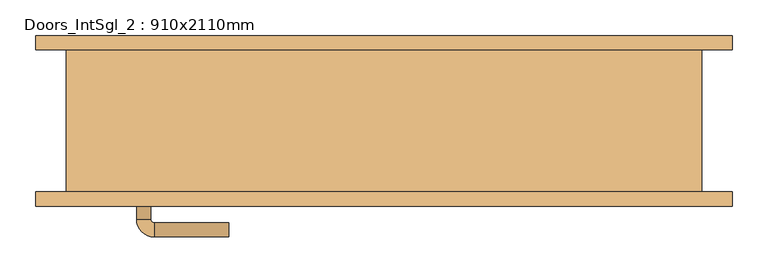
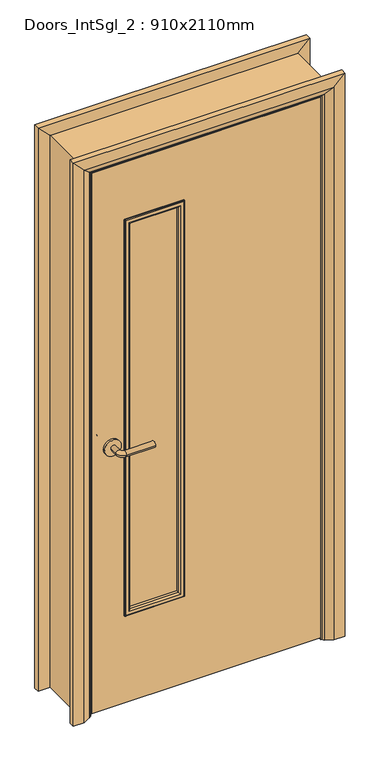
"""IFC4 building model written with IfcOpenShell, lengths in millimetres: door geometry, Doors_IntSgl_2 : 910x2110mm."""

from ifc_helpers import new_model, si_unit, point, frame, frame_2d, origin, place, context, project, spatial, polyline, circle_curve, ellipse_curve, trimmed, segment, composite_curve, outline, extrude, faceted_brep, source, transform, mapped, element, save
from ifc_brep_helpers import plane_surface, cylinder_surface, revolved_surface, advanced_brep


def doors_intsgl_2_910x2110mm_9519ea66(model_context):
    return source(origin(), model_context, "Body", "SolidModel", [
        advanced_brep(
        [(-348.0, -54.0, 1000.0), (-328.0, -54.0, 1000.0), (-348.0, -24.0, 1000.0), (-328.0, -24.0, 1000.0), (-323.0, -19.0, 1000.0), (-323.0, 1.0, 1000.0), (-218.0, 1.0, 1000.0), (-218.0, -19.0, 1000.0)],
        [
            (0, 1, circle_curve(frame((-338.0, -54.0, 1000.0), z_axis=(0.0, -1.0, 0.0), x_axis=(1.0, 0.0, 0.0)), 10.0)),
            (1, 0, circle_curve(frame((-338.0, -54.0, 1000.0), z_axis=(0.0, -1.0, 0.0), x_axis=(1.0, 0.0, 0.0)), 10.0)),
            (0, 2),
            (2, 3, circle_curve(frame((-338.0, -24.0, 1000.0), z_axis=(0.0, -1.0, 0.0), x_axis=(1.0, 0.0, 0.0)), 10.0)),
            (3, 1),
            (3, 2, circle_curve(frame((-338.0, -24.0, 1000.0), z_axis=(0.0, -1.0, 0.0), x_axis=(1.0, 0.0, 0.0)), 10.0)),
            (4, 3, circle_curve(frame((-323.0, -24.0, 1000.0), z_axis=(0.0, 0.0, 1.0), x_axis=(-1.0, 0.0, 0.0)), 5.0)),
            (2, 5, circle_curve(frame((-323.0, -24.0, 1000.0), z_axis=(0.0, 0.0, -1.0), x_axis=(-1.0, 0.0, 0.0)), 25.0)),
            (5, 4, circle_curve(frame((-323.0, -9.0, 1000.0), z_axis=(-1.0, 0.0, 0.0), x_axis=(0.0, -1.0, 0.0)), 10.0)),
            (4, 5, circle_curve(frame((-323.0, -9.0, 1000.0), z_axis=(-1.0, 0.0, 0.0), x_axis=(0.0, -1.0, 0.0)), 10.0)),
            (6, 7, circle_curve(frame((-218.0, -9.0, 1000.0), z_axis=(1.0, 0.0, 0.0), x_axis=(0.0, -1.0, 0.0)), 10.0)),
            (7, 6, circle_curve(frame((-218.0, -9.0, 1000.0), z_axis=(1.0, 0.0, 0.0), x_axis=(0.0, -1.0, 0.0)), 10.0)),
            (5, 6),
            (7, 4),
        ],
        [
            plane_surface(frame((-338.0, -54.0, 1000.0), z_axis=(0.0, -1.0, 0.0), x_axis=(0.0, 0.0, 1.0))),
            cylinder_surface(frame((-338.0, -54.0, 1000.0), z_axis=(0.0, -1.0, 0.0), x_axis=(1.0, 0.0, 0.0)), 10.0),
            revolved_surface(trimmed(ellipse_curve(frame((-338.0, -24.0, 1000.0), z_axis=(0.0, -1.0, 0.0), x_axis=(1.0, 0.0, 0.0)), 10.0, 10.0), [point((-348.0, -24.0, 1000.0))], [point((-328.0, -24.0, 1000.0))], True, "CARTESIAN"), (-323.0, -24.0, 1000.0), (0.0, 0.0, -1.0)),
            revolved_surface(trimmed(ellipse_curve(frame((-338.0, -24.0, 1000.0), z_axis=(0.0, -1.0, 0.0), x_axis=(1.0, 0.0, 0.0)), 10.0, 10.0), [point((-328.0, -24.0, 1000.0))], [point((-348.0, -24.0, 1000.0))], True, "CARTESIAN"), (-323.0, -24.0, 1000.0), (0.0, 0.0, -1.0)),
            plane_surface(frame((-218.0, -9.0, 1000.0), z_axis=(1.0, 0.0, 0.0), x_axis=(0.0, 0.0, 1.0))),
            cylinder_surface(frame((-323.0, -9.0, 1000.0), z_axis=(-1.0, 0.0, 0.0), x_axis=(0.0, -1.0, 0.0)), 10.0),
        ],
        [
            (0, [[1, 2]]),
            (1, [[-1, 3, 4, 5]]),
            (1, [[-2, -5, 6, -3]]),
            (2, [[7, -4, 8, 9]]),
            (3, [[-8, -6, -7, 10]]),
            (4, [[11, 12]]),
            (5, [[-9, 13, -12, 14]]),
            (5, [[-10, -14, -11, -13]]),
        ],
    ),
        extrude(outline(composite_curve([segment(trimmed(circle_curve(frame_2d((1000.0, -340.5)), 30.0), [point((1000.0, -370.5))], [point((1000.0, -310.5))], False, "CARTESIAN"), True, "CONTINUOUS"), segment(trimmed(circle_curve(frame_2d((1000.0, -340.5)), 30.0), [point((1000.0, -310.5))], [point((1000.0, -370.5))], False, "CARTESIAN"), True, "CONTINUOUS")], self_intersect=False)), frame((0.0, -62.0, 0.0), z_axis=(0.0, 1.0, 0.0), x_axis=(0.0, 0.0, 1.0)), (0.0, 0.0, 1.0), 8.0),
        advanced_brep(
        [(-348.0, -108.0, 1000.0), (-328.0, -108.0, 1000.0), (-328.0, -138.0, 1000.0), (-348.0, -138.0, 1000.0), (-323.0, -143.0, 1000.0), (-323.0, -163.0, 1000.0), (-218.0, -163.0, 1000.0), (-218.0, -143.0, 1000.0)],
        [
            (0, 1, circle_curve(frame((-338.0, -108.0, 1000.0), z_axis=(0.0, 1.0, 0.0), x_axis=(1.0, 0.0, 0.0)), 10.0)),
            (1, 0, circle_curve(frame((-338.0, -108.0, 1000.0), z_axis=(0.0, 1.0, 0.0), x_axis=(1.0, 0.0, 0.0)), 10.0)),
            (1, 2),
            (2, 3, circle_curve(frame((-338.0, -138.0, 1000.0), z_axis=(0.0, 1.0, 0.0), x_axis=(1.0, 0.0, 0.0)), 10.0)),
            (3, 0),
            (3, 2, circle_curve(frame((-338.0, -138.0, 1000.0), z_axis=(0.0, 1.0, 0.0), x_axis=(1.0, 0.0, 0.0)), 10.0)),
            (4, 5, circle_curve(frame((-323.0, -153.0, 1000.0), z_axis=(-1.0, 0.0, 0.0), x_axis=(0.0, 1.0, 0.0)), 10.0)),
            (5, 3, circle_curve(frame((-323.0, -138.0, 1000.0), z_axis=(0.0, 0.0, -1.0), x_axis=(-1.0, 0.0, 0.0)), 25.0)),
            (2, 4, circle_curve(frame((-323.0, -138.0, 1000.0), z_axis=(0.0, 0.0, 1.0), x_axis=(-1.0, 0.0, 0.0)), 5.0)),
            (5, 4, circle_curve(frame((-323.0, -153.0, 1000.0), z_axis=(-1.0, 0.0, 0.0), x_axis=(0.0, 1.0, 0.0)), 10.0)),
            (6, 7, circle_curve(frame((-218.0, -153.0, 1000.0), z_axis=(1.0, 0.0, 0.0), x_axis=(0.0, 1.0, 0.0)), 10.0)),
            (7, 6, circle_curve(frame((-218.0, -153.0, 1000.0), z_axis=(1.0, 0.0, 0.0), x_axis=(0.0, 1.0, 0.0)), 10.0)),
            (4, 7),
            (6, 5),
        ],
        [
            plane_surface(frame((-338.0, -108.0, 1000.0), z_axis=(0.0, 1.0, 0.0), x_axis=(0.0, 0.0, 1.0))),
            cylinder_surface(frame((-338.0, -108.0, 1000.0), z_axis=(0.0, 1.0, 0.0), x_axis=(1.0, 0.0, 0.0)), 10.0),
            revolved_surface(trimmed(ellipse_curve(frame((-338.0, -138.0, 1000.0), z_axis=(0.0, -1.0, 0.0), x_axis=(1.0, 0.0, 0.0)), 10.0, 10.0), [point((-348.0, -138.0, 1000.0))], [point((-328.0, -138.0, 1000.0))], True, "CARTESIAN"), (-323.0, -138.0, 1000.0), (0.0, 0.0, -1.0)),
            revolved_surface(trimmed(ellipse_curve(frame((-338.0, -138.0, 1000.0), z_axis=(0.0, -1.0, 0.0), x_axis=(1.0, 0.0, 0.0)), 10.0, 10.0), [point((-328.0, -138.0, 1000.0))], [point((-348.0, -138.0, 1000.0))], True, "CARTESIAN"), (-323.0, -138.0, 1000.0), (0.0, 0.0, -1.0)),
            plane_surface(frame((-218.0, -153.0, 1000.0), z_axis=(1.0, 0.0, 0.0), x_axis=(0.0, 0.0, 1.0))),
            cylinder_surface(frame((-323.0, -153.0, 1000.0), z_axis=(-1.0, 0.0, 0.0), x_axis=(0.0, 1.0, 0.0)), 10.0),
        ],
        [
            (0, [[1, 2]]),
            (1, [[3, 4, 5, -2]]),
            (1, [[-5, 6, -3, -1]]),
            (2, [[7, 8, -4, 9]]),
            (3, [[10, -9, -6, -8]]),
            (4, [[11, 12]]),
            (5, [[13, -11, 14, -7]]),
            (5, [[-14, -12, -13, -10]]),
        ],
    ),
        extrude(outline(composite_curve([segment(trimmed(circle_curve(frame_2d((1000.0, -340.5)), 30.0), [point((1000.0, -370.5))], [point((1000.0, -310.5))], False, "CARTESIAN"), True, "CONTINUOUS"), segment(trimmed(circle_curve(frame_2d((1000.0, -340.5)), 30.0), [point((1000.0, -310.5))], [point((1000.0, -370.5))], False, "CARTESIAN"), True, "CONTINUOUS")], self_intersect=False)), frame((0.0, -108.0, 0.0), z_axis=(0.0, 1.0, 0.0), x_axis=(0.0, 0.0, 1.0)), (0.0, 0.0, 1.0), 8.0),
        extrude(outline(polyline([(2068.0, -413.0), (8.0, -413.0), (8.0, 413.0), (2068.0, 413.0), (2068.0, -413.0)]), holes=[polyline([(1843.0, -88.0), (350.0, -88.0), (350.0, -288.0), (1843.0, -288.0), (1843.0, -88.0)])]), frame((0.0, -100.0, 0.0), z_axis=(0.0, 1.0, 0.0), x_axis=(0.0, 0.0, 1.0)), (0.0, 0.0, 1.0), 38.0),
        extrude(outline(polyline([(0.0, -396.0), (2051.0, -396.0), (2051.0, 396.0), (0.0, 396.0), (0.0, 415.0), (2070.0, 415.0), (2070.0, -415.0), (0.0, -415.0), (0.0, -396.0)])), frame((0.0, -60.0, 0.0), z_axis=(0.0, 1.0, 0.0), x_axis=(0.0, 0.0, 1.0)), (0.0, 0.0, 1.0), 32.0),
        advanced_brep(
        [(-490.0, -120.0, 0.0), (-490.0, -100.0, 0.0), (-420.0, -100.0, 0.0), (-424.0, -106.0, 0.0), (-450.0, -120.0, 0.0), (-450.0, -120.0, 2105.0), (-490.0, -120.0, 2145.0), (-424.0, -106.0, 2079.0), (-420.0, -100.0, 2075.0), (-490.0, -100.0, 2145.0), (490.0, -120.0, 0.0), (450.0, -120.0, 0.0), (424.0, -106.0, 0.0), (420.0, -100.0, 0.0), (490.0, -100.0, 0.0), (490.0, -120.0, 2145.0), (490.0, -100.0, 2145.0), (420.0, -100.0, 2075.0), (424.0, -106.0, 2079.0), (450.0, -120.0, 2105.0)],
        [
            (0, 1),
            (1, 2),
            (2, 3, circle_curve(frame((-428.0, -99.0, 0.0), z_axis=(0.0, 0.0, -1.0), x_axis=(-1.0, 0.0, 0.0)), 8.0622577)),
            (3, 4),
            (4, 0),
            (4, 5),
            (5, 6),
            (6, 0),
            (3, 7),
            (7, 5),
            (2, 8),
            (8, 7, ellipse_curve(frame((-428.0, -99.0, 2083.0), z_axis=(-0.7071067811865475, 0.0, -0.7071067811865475), x_axis=(0.7071067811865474, 0.0, -0.7071067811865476)), 11.4017543, 8.0622577)),
            (1, 9),
            (9, 8),
            (6, 9),
            (10, 11),
            (11, 12),
            (12, 13, circle_curve(frame((428.0, -99.0, 0.0), z_axis=(0.0, 0.0, -1.0), x_axis=(1.0, 0.0, 0.0)), 8.0622577)),
            (13, 14),
            (14, 10),
            (15, 10),
            (14, 16),
            (16, 15),
            (13, 17),
            (17, 16),
            (12, 18),
            (18, 17, ellipse_curve(frame((428.0, -99.0, 2083.0), z_axis=(0.7071067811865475, 0.0, -0.7071067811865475), x_axis=(0.7071067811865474, 0.0, 0.7071067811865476)), 11.4017543, 8.0622577)),
            (11, 19),
            (19, 18),
            (15, 19),
            (5, 19),
            (15, 6),
            (7, 18),
            (8, 17),
            (9, 16),
        ],
        [
            plane_surface(frame((-420.0, -27.1989011, 0.0), z_axis=(0.0, 0.0, -1.0), x_axis=(1.0, 0.0, 0.0))),
            plane_surface(frame((-490.0, -120.0, 0.0), z_axis=(0.0, -1.0, 0.0), x_axis=(0.0, 0.0, 1.0))),
            plane_surface(frame((-450.0, -120.0, 0.0), z_axis=(0.4740998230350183, -0.8804710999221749, 0.0), x_axis=(0.0, 0.0, 1.0))),
            cylinder_surface(frame((-428.0, -99.0, 0.0), z_axis=(0.0, 0.0, -1.0), x_axis=(-1.0, 0.0, 0.0)), 8.0622577),
            plane_surface(frame((-420.0, -100.0, 0.0), z_axis=(0.0, 1.0, 0.0), x_axis=(0.0, 0.0, 1.0))),
            plane_surface(frame((-490.0, -100.0, 0.0), z_axis=(-1.0, 0.0, 0.0), x_axis=(0.0, 0.0, 1.0))),
            plane_surface(frame((420.0, -27.1989011, 0.0), z_axis=(0.0, 0.0, -1.0), x_axis=(-1.0, 0.0, 0.0))),
            plane_surface(frame((490.0, -100.0, 2145.0), z_axis=(1.0, 0.0, 0.0), x_axis=(0.0, 0.0, -1.0))),
            plane_surface(frame((420.0, -100.0, 2075.0), z_axis=(0.0, 1.0, 0.0), x_axis=(0.0, 0.0, -1.0))),
            cylinder_surface(frame((428.0, -99.0, 2075.0), z_axis=(0.0, 0.0, 1.0), x_axis=(1.0, 0.0, 0.0)), 8.0622577),
            plane_surface(frame((450.0, -120.0, 2105.0), z_axis=(-0.4740998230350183, -0.8804710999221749, 0.0), x_axis=(0.0, 0.0, -1.0))),
            plane_surface(frame((490.0, -120.0, 2145.0), z_axis=(0.0, -1.0, 0.0), x_axis=(0.0, 0.0, -1.0))),
            plane_surface(frame((-490.0, -120.0, 2145.0), z_axis=(0.0, -1.0, 0.0), x_axis=(1.0, 0.0, 0.0))),
            plane_surface(frame((-450.0, -120.0, 2105.0), z_axis=(0.0, -0.8804710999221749, -0.4740998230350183), x_axis=(1.0, 0.0, 0.0))),
            cylinder_surface(frame((-420.0, -99.0, 2083.0), z_axis=(-1.0, 0.0, 0.0), x_axis=(0.0, 0.0, 1.0)), 8.0622577),
            plane_surface(frame((-420.0, -100.0, 2075.0), z_axis=(0.0, 1.0, 0.0), x_axis=(1.0, 0.0, 0.0))),
            plane_surface(frame((-490.0, -100.0, 2145.0), z_axis=(0.0, 0.0, 1.0), x_axis=(1.0, 0.0, 0.0))),
        ],
        [
            (0, [[1, 2, 3, 4, 5]]),
            (1, [[6, 7, 8, -5]]),
            (2, [[9, 10, -6, -4]]),
            (3, [[11, 12, -9, -3]]),
            (4, [[13, 14, -11, -2]]),
            (5, [[-8, 15, -13, -1]]),
            (6, [[16, 17, 18, 19, 20]]),
            (7, [[21, -20, 22, 23]]),
            (8, [[-22, -19, 24, 25]]),
            (9, [[-24, -18, 26, 27]]),
            (10, [[-26, -17, 28, 29]]),
            (11, [[-28, -16, -21, 30]]),
            (12, [[31, -30, 32, -7]]),
            (13, [[33, -29, -31, -10]]),
            (14, [[34, -27, -33, -12]]),
            (15, [[35, -25, -34, -14]]),
            (16, [[-32, -23, -35, -15]]),
        ],
    ),
        advanced_brep(
        [(-490.0, 120.0, 0.0), (-450.0, 120.0, 0.0), (-424.0, 106.0, 0.0), (-420.0, 100.0, 0.0), (-490.0, 100.0, 0.0), (-490.0, 100.0, 2145.0), (-490.0, 120.0, 2145.0), (-420.0, 100.0, 2075.0), (-424.0, 106.0, 2079.0), (-450.0, 120.0, 2105.0), (490.0, 120.0, 0.0), (490.0, 100.0, 0.0), (420.0, 100.0, 0.0), (424.0, 106.0, 0.0), (450.0, 120.0, 0.0), (490.0, 120.0, 2145.0), (450.0, 120.0, 2105.0), (424.0, 106.0, 2079.0), (420.0, 100.0, 2075.0), (490.0, 100.0, 2145.0)],
        [
            (0, 1),
            (1, 2),
            (2, 3, circle_curve(frame((-428.0, 99.0, 0.0), z_axis=(0.0, 0.0, -1.0), x_axis=(-1.0, 0.0, 0.0)), 8.0622577)),
            (3, 4),
            (4, 0),
            (4, 5),
            (5, 6),
            (6, 0),
            (3, 7),
            (7, 5),
            (2, 8),
            (8, 7, ellipse_curve(frame((-428.0, 99.0, 2083.0), z_axis=(-0.7071067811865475, 0.0, -0.7071067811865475), x_axis=(0.7071067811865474, 0.0, -0.7071067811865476)), 11.4017543, 8.0622577)),
            (1, 9),
            (9, 8),
            (6, 9),
            (10, 11),
            (11, 12),
            (12, 13, circle_curve(frame((428.0, 99.0, 0.0), z_axis=(0.0, 0.0, -1.0), x_axis=(1.0, 0.0, 0.0)), 8.0622577)),
            (13, 14),
            (14, 10),
            (15, 10),
            (14, 16),
            (16, 15),
            (13, 17),
            (17, 16),
            (12, 18),
            (18, 17, ellipse_curve(frame((428.0, 99.0, 2083.0), z_axis=(0.7071067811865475, 0.0, -0.7071067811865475), x_axis=(0.7071067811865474, 0.0, 0.7071067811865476)), 11.4017543, 8.0622577)),
            (11, 19),
            (19, 18),
            (15, 19),
            (5, 19),
            (15, 6),
            (7, 18),
            (8, 17),
            (9, 16),
        ],
        [
            plane_surface(frame((-420.0, 172.8010989, 0.0), z_axis=(0.0, 0.0, -1.0), x_axis=(1.0, 0.0, 0.0))),
            plane_surface(frame((-490.0, 120.0, 0.0), z_axis=(-1.0, 0.0, 0.0), x_axis=(0.0, 0.0, 1.0))),
            plane_surface(frame((-490.0, 100.0, 0.0), z_axis=(0.0, -1.0, 0.0), x_axis=(0.0, 0.0, 1.0))),
            cylinder_surface(frame((-428.0, 99.0, 0.0), z_axis=(0.0, 0.0, -1.0), x_axis=(-1.0, 0.0, 0.0)), 8.0622577),
            plane_surface(frame((-424.0, 106.0, 0.0), z_axis=(0.4740998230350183, 0.8804710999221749, 0.0), x_axis=(0.0, 0.0, 1.0))),
            plane_surface(frame((-450.0, 120.0, 0.0), z_axis=(0.0, 1.0, 0.0), x_axis=(0.0, 0.0, 1.0))),
            plane_surface(frame((420.0, 172.8010989, 0.0), z_axis=(0.0, 0.0, -1.0), x_axis=(-1.0, 0.0, 0.0))),
            plane_surface(frame((450.0, 120.0, 2105.0), z_axis=(0.0, 1.0, 0.0), x_axis=(0.0, 0.0, -1.0))),
            plane_surface(frame((424.0, 106.0, 2079.0), z_axis=(-0.4740998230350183, 0.8804710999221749, 0.0), x_axis=(0.0, 0.0, -1.0))),
            cylinder_surface(frame((428.0, 99.0, 2075.0), z_axis=(0.0, 0.0, 1.0), x_axis=(1.0, 0.0, 0.0)), 8.0622577),
            plane_surface(frame((490.0, 100.0, 2145.0), z_axis=(0.0, -1.0, 0.0), x_axis=(0.0, 0.0, -1.0))),
            plane_surface(frame((490.0, 120.0, 2145.0), z_axis=(1.0, 0.0, 0.0), x_axis=(0.0, 0.0, -1.0))),
            plane_surface(frame((-490.0, 120.0, 2145.0), z_axis=(0.0, 0.0, 1.0), x_axis=(1.0, 0.0, 0.0))),
            plane_surface(frame((-490.0, 100.0, 2145.0), z_axis=(0.0, -1.0, 0.0), x_axis=(1.0, 0.0, 0.0))),
            cylinder_surface(frame((-420.0, 99.0, 2083.0), z_axis=(-1.0, 0.0, 0.0), x_axis=(0.0, 0.0, 1.0)), 8.0622577),
            plane_surface(frame((-424.0, 106.0, 2079.0), z_axis=(0.0, 0.8804710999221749, -0.4740998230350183), x_axis=(1.0, 0.0, 0.0))),
            plane_surface(frame((-450.0, 120.0, 2105.0), z_axis=(0.0, 1.0, 0.0), x_axis=(1.0, 0.0, 0.0))),
        ],
        [
            (0, [[1, 2, 3, 4, 5]]),
            (1, [[6, 7, 8, -5]]),
            (2, [[9, 10, -6, -4]]),
            (3, [[11, 12, -9, -3]]),
            (4, [[13, 14, -11, -2]]),
            (5, [[-8, 15, -13, -1]]),
            (6, [[16, 17, 18, 19, 20]]),
            (7, [[21, -20, 22, 23]]),
            (8, [[-22, -19, 24, 25]]),
            (9, [[-24, -18, 26, 27]]),
            (10, [[-26, -17, 28, 29]]),
            (11, [[-28, -16, -21, 30]]),
            (12, [[31, -30, 32, -7]]),
            (13, [[33, -29, -31, -10]]),
            (14, [[34, -27, -33, -12]]),
            (15, [[35, -25, -34, -14]]),
            (16, [[-32, -23, -35, -15]]),
        ],
    ),
        faceted_brep([(-415.0, -100.0, 0.0), (-447.0, -100.0, 0.0), (-447.0, 100.0, 0.0), (-415.0, 100.0, 0.0), (-415.0, 100.0, 2070.0), (-415.0, -100.0, 2070.0), (-447.0, 100.0, 2102.0), (-447.0, -100.0, 2102.0), (415.0, -100.0, 0.0), (415.0, 100.0, 0.0), (447.0, 100.0, 0.0), (447.0, -100.0, 0.0), (415.0, -100.0, 2070.0), (447.0, -100.0, 2102.0), (447.0, 100.0, 2102.0), (415.0, 100.0, 2070.0)], [[[0, 1, 2, 3]], [[3, 4, 5, 0]], [[2, 6, 4, 3]], [[1, 7, 6, 2]], [[0, 5, 7, 1]], [[8, 9, 10, 11]], [[12, 8, 11, 13]], [[13, 11, 10, 14]], [[14, 10, 9, 15]], [[15, 9, 8, 12]], [[4, 15, 12, 5]], [[6, 14, 15, 4]], [[7, 13, 14, 6]], [[5, 12, 13, 7]]]),
        extrude(outline(polyline([(-288.0, -90.0), (-288.0, -72.0), (-88.0, -72.0), (-88.0, -90.0), (-288.0, -90.0)])), frame((0.0, 0.0, 350.0), z_axis=(0.0, 0.0, 1.0), x_axis=(1.0, 0.0, 0.0)), (0.0, 0.0, 1.0), 1493.0),
        advanced_brep(
        [(-88.0, -72.0, 1843.0), (-88.0, -72.0, 350.0), (-88.0, -62.0, 350.0), (-88.0, -62.0, 1843.0), (-100.0, -61.0, 1831.0), (-100.0, -61.0, 362.0), (-100.0, -72.0, 362.0), (-100.0, -72.0, 1831.0), (-95.0, -56.0, 1836.0), (-95.0, -56.0, 357.0), (-80.0, -58.0, 1851.0), (-80.0, -58.0, 342.0), (-82.0, -56.0, 344.0), (-82.0, -56.0, 1849.0), (-80.0, -62.0, 1851.0), (-80.0, -62.0, 342.0), (-288.0, -72.0, 350.0), (-288.0, -62.0, 350.0), (-276.0, -61.0, 362.0), (-276.0, -72.0, 362.0), (-281.0, -56.0, 357.0), (-296.0, -58.0, 342.0), (-294.0, -56.0, 344.0), (-296.0, -62.0, 342.0), (-288.0, -72.0, 1843.0), (-288.0, -62.0, 1843.0), (-276.0, -61.0, 1831.0), (-276.0, -72.0, 1831.0), (-281.0, -56.0, 1836.0), (-296.0, -58.0, 1851.0), (-294.0, -56.0, 1849.0), (-296.0, -62.0, 1851.0)],
        [
            (0, 1),
            (1, 2),
            (2, 3),
            (3, 0),
            (4, 5),
            (5, 6),
            (6, 7),
            (7, 4),
            (8, 9),
            (9, 5, ellipse_curve(frame((-95.0, -61.0, 357.0), z_axis=(0.7071067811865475, 0.0, 0.7071067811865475), x_axis=(-0.7071067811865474, 0.0, 0.7071067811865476)), 7.0710678, 5.0)),
            (4, 8, ellipse_curve(frame((-95.0, -61.0, 1836.0), z_axis=(0.7071067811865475, 0.0, -0.7071067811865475), x_axis=(0.7071067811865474, 0.0, 0.7071067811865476)), 7.0710678, 5.0)),
            (10, 11),
            (11, 12, ellipse_curve(frame((-82.0, -58.0, 344.0), z_axis=(0.7071067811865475, 0.0, 0.7071067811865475), x_axis=(-0.7071067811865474, 0.0, 0.7071067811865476)), 2.8284271, 2.0)),
            (12, 13),
            (13, 10, ellipse_curve(frame((-82.0, -58.0, 1849.0), z_axis=(0.7071067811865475, 0.0, -0.7071067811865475), x_axis=(0.7071067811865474, 0.0, 0.7071067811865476)), 2.8284271, 2.0)),
            (14, 15),
            (15, 11),
            (10, 14),
            (1, 16),
            (16, 17),
            (17, 2),
            (5, 18),
            (18, 19),
            (19, 6),
            (9, 20),
            (20, 18, ellipse_curve(frame((-281.0, -61.0, 357.0), z_axis=(0.7071067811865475, 0.0, -0.7071067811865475), x_axis=(0.7071067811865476, 0.0, 0.7071067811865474)), 7.0710678, 5.0)),
            (11, 21),
            (21, 22, ellipse_curve(frame((-294.0, -58.0, 344.0), z_axis=(0.7071067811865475, 0.0, -0.7071067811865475), x_axis=(0.7071067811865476, 0.0, 0.7071067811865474)), 2.8284271, 2.0)),
            (22, 12),
            (15, 23),
            (23, 21),
            (16, 24),
            (24, 25),
            (25, 17),
            (18, 26),
            (26, 27),
            (27, 19),
            (20, 28),
            (28, 26, ellipse_curve(frame((-281.0, -61.0, 1836.0), z_axis=(-0.7071067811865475, 0.0, -0.7071067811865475), x_axis=(0.7071067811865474, 0.0, -0.7071067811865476)), 7.0710678, 5.0)),
            (21, 29),
            (29, 30, ellipse_curve(frame((-294.0, -58.0, 1849.0), z_axis=(-0.7071067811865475, 0.0, -0.7071067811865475), x_axis=(0.7071067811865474, 0.0, -0.7071067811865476)), 2.8284271, 2.0)),
            (30, 22),
            (23, 31),
            (31, 29),
            (14, 31),
            (25, 3),
            (24, 0),
            (27, 7),
            (26, 4),
            (28, 8),
            (30, 13),
            (29, 10),
        ],
        [
            plane_surface(frame((-88.0, -62.0, 1843.0), z_axis=(1.0, 0.0, 0.0), x_axis=(0.0, 0.0, -1.0))),
            plane_surface(frame((-100.0, -72.0, 1831.0), z_axis=(-1.0, 0.0, 0.0), x_axis=(0.0, 0.0, -1.0))),
            cylinder_surface(frame((-95.0, -61.0, 1843.0), z_axis=(0.0, 0.0, 1.0), x_axis=(1.0, 0.0, 0.0)), 5.0),
            cylinder_surface(frame((-82.0, -58.0, 1843.0), z_axis=(0.0, 0.0, 1.0), x_axis=(1.0, 0.0, 0.0)), 2.0),
            plane_surface(frame((-80.0, -58.0, 1851.0), z_axis=(1.0, 0.0, 0.0), x_axis=(0.0, 0.0, -1.0))),
            plane_surface(frame((-88.0, -62.0, 350.0), z_axis=(0.0, 0.0, -1.0), x_axis=(-1.0, 0.0, 0.0))),
            plane_surface(frame((-100.0, -72.0, 362.0), z_axis=(0.0, 0.0, 1.0), x_axis=(-1.0, 0.0, 0.0))),
            cylinder_surface(frame((-88.0, -61.0, 357.0), z_axis=(1.0, 0.0, 0.0), x_axis=(0.0, 0.0, -1.0)), 5.0),
            cylinder_surface(frame((-88.0, -58.0, 344.0), z_axis=(1.0, 0.0, 0.0), x_axis=(0.0, 0.0, -1.0)), 2.0),
            plane_surface(frame((-80.0, -58.0, 342.0), z_axis=(0.0, 0.0, -1.0), x_axis=(-1.0, 0.0, 0.0))),
            plane_surface(frame((-288.0, -62.0, 350.0), z_axis=(-1.0, 0.0, 0.0), x_axis=(0.0, 0.0, 1.0))),
            plane_surface(frame((-276.0, -72.0, 362.0), z_axis=(1.0, 0.0, 0.0), x_axis=(0.0, 0.0, 1.0))),
            cylinder_surface(frame((-281.0, -61.0, 350.0), z_axis=(0.0, 0.0, -1.0), x_axis=(-1.0, 0.0, 0.0)), 5.0),
            cylinder_surface(frame((-294.0, -58.0, 350.0), z_axis=(0.0, 0.0, -1.0), x_axis=(-1.0, 0.0, 0.0)), 2.0),
            plane_surface(frame((-296.0, -58.0, 342.0), z_axis=(-1.0, 0.0, 0.0), x_axis=(0.0, 0.0, 1.0))),
            plane_surface(frame((-296.0, -62.0, 1851.0), z_axis=(0.0, -1.0, 0.0), x_axis=(1.0, 0.0, 0.0))),
            plane_surface(frame((-288.0, -62.0, 1843.0), z_axis=(0.0, 0.0, 1.0), x_axis=(1.0, 0.0, 0.0))),
            plane_surface(frame((-288.0, -72.0, 1843.0), z_axis=(0.0, -1.0, 0.0), x_axis=(1.0, 0.0, 0.0))),
            plane_surface(frame((-276.0, -72.0, 1831.0), z_axis=(0.0, 0.0, -1.0), x_axis=(1.0, 0.0, 0.0))),
            cylinder_surface(frame((-288.0, -61.0, 1836.0), z_axis=(-1.0, 0.0, 0.0), x_axis=(0.0, 0.0, 1.0)), 5.0),
            plane_surface(frame((-281.0, -56.0, 1836.0), z_axis=(0.0, 1.0, 0.0), x_axis=(1.0, 0.0, 0.0))),
            cylinder_surface(frame((-288.0, -58.0, 1849.0), z_axis=(-1.0, 0.0, 0.0), x_axis=(0.0, 0.0, 1.0)), 2.0),
            plane_surface(frame((-296.0, -58.0, 1851.0), z_axis=(0.0, 0.0, 1.0), x_axis=(1.0, 0.0, 0.0))),
        ],
        [
            (0, [[1, 2, 3, 4]]),
            (1, [[5, 6, 7, 8]]),
            (2, [[9, 10, -5, 11]]),
            (3, [[12, 13, 14, 15]]),
            (4, [[16, 17, -12, 18]]),
            (5, [[19, 20, 21, -2]]),
            (6, [[22, 23, 24, -6]]),
            (7, [[25, 26, -22, -10]]),
            (8, [[27, 28, 29, -13]]),
            (9, [[30, 31, -27, -17]]),
            (10, [[32, 33, 34, -20]]),
            (11, [[35, 36, 37, -23]]),
            (12, [[38, 39, -35, -26]]),
            (13, [[40, 41, 42, -28]]),
            (14, [[43, 44, -40, -31]]),
            (15, [[-16, 45, -43, -30], [-3, -21, -34, 46]]),
            (16, [[47, -4, -46, -33]]),
            (17, [[-1, -47, -32, -19], [-7, -24, -37, 48]]),
            (18, [[49, -8, -48, -36]]),
            (19, [[50, -11, -49, -39]]),
            (20, [[-14, -29, -42, 51], [-9, -50, -38, -25]]),
            (21, [[52, -15, -51, -41]]),
            (22, [[-45, -18, -52, -44]]),
        ],
    ),
        advanced_brep(
        [(-80.0, -104.0, 1851.0), (-80.0, -104.0, 342.0), (-80.0, -100.0, 342.0), (-80.0, -100.0, 1851.0), (-82.0, -106.0, 1849.0), (-82.0, -106.0, 344.0), (-100.0, -101.0, 1831.0), (-100.0, -101.0, 362.0), (-95.0, -106.0, 357.0), (-95.0, -106.0, 1836.0), (-100.0, -90.0, 1831.0), (-100.0, -90.0, 362.0), (-88.0, -100.0, 1843.0), (-88.0, -100.0, 350.0), (-88.0, -90.0, 350.0), (-88.0, -90.0, 1843.0), (-296.0, -104.0, 342.0), (-296.0, -100.0, 342.0), (-294.0, -106.0, 344.0), (-276.0, -101.0, 362.0), (-281.0, -106.0, 357.0), (-276.0, -90.0, 362.0), (-288.0, -100.0, 350.0), (-288.0, -90.0, 350.0), (-296.0, -104.0, 1851.0), (-296.0, -100.0, 1851.0), (-294.0, -106.0, 1849.0), (-276.0, -101.0, 1831.0), (-281.0, -106.0, 1836.0), (-276.0, -90.0, 1831.0), (-288.0, -100.0, 1843.0), (-288.0, -90.0, 1843.0)],
        [
            (0, 1),
            (1, 2),
            (2, 3),
            (3, 0),
            (4, 5),
            (5, 1, ellipse_curve(frame((-82.0, -104.0, 344.0), z_axis=(0.7071067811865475, 0.0, 0.7071067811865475), x_axis=(-0.7071067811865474, 0.0, 0.7071067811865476)), 2.8284271, 2.0)),
            (0, 4, ellipse_curve(frame((-82.0, -104.0, 1849.0), z_axis=(0.7071067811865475, 0.0, -0.7071067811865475), x_axis=(0.7071067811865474, 0.0, 0.7071067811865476)), 2.8284271, 2.0)),
            (6, 7),
            (7, 8, ellipse_curve(frame((-95.0, -101.0, 357.0), z_axis=(0.7071067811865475, 0.0, 0.7071067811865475), x_axis=(-0.7071067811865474, 0.0, 0.7071067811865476)), 7.0710678, 5.0)),
            (8, 9),
            (9, 6, ellipse_curve(frame((-95.0, -101.0, 1836.0), z_axis=(0.7071067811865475, 0.0, -0.7071067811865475), x_axis=(0.7071067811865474, 0.0, 0.7071067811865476)), 7.0710678, 5.0)),
            (10, 11),
            (11, 7),
            (6, 10),
            (12, 13),
            (13, 14),
            (14, 15),
            (15, 12),
            (1, 16),
            (16, 17),
            (17, 2),
            (5, 18),
            (18, 16, ellipse_curve(frame((-294.0, -104.0, 344.0), z_axis=(0.7071067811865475, 0.0, -0.7071067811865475), x_axis=(0.7071067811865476, 0.0, 0.7071067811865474)), 2.8284271, 2.0)),
            (7, 19),
            (19, 20, ellipse_curve(frame((-281.0, -101.0, 357.0), z_axis=(0.7071067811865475, 0.0, -0.7071067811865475), x_axis=(0.7071067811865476, 0.0, 0.7071067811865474)), 7.0710678, 5.0)),
            (20, 8),
            (11, 21),
            (21, 19),
            (13, 22),
            (22, 23),
            (23, 14),
            (16, 24),
            (24, 25),
            (25, 17),
            (18, 26),
            (26, 24, ellipse_curve(frame((-294.0, -104.0, 1849.0), z_axis=(-0.7071067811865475, 0.0, -0.7071067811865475), x_axis=(0.7071067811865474, 0.0, -0.7071067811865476)), 2.8284271, 2.0)),
            (19, 27),
            (27, 28, ellipse_curve(frame((-281.0, -101.0, 1836.0), z_axis=(-0.7071067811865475, 0.0, -0.7071067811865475), x_axis=(0.7071067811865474, 0.0, -0.7071067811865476)), 7.0710678, 5.0)),
            (28, 20),
            (21, 29),
            (29, 27),
            (22, 30),
            (30, 31),
            (31, 23),
            (24, 0),
            (3, 25),
            (26, 4),
            (28, 9),
            (27, 6),
            (29, 10),
            (31, 15),
            (30, 12),
        ],
        [
            plane_surface(frame((-80.0, -100.0, 1851.0), z_axis=(1.0, 0.0, 0.0), x_axis=(0.0, 0.0, -1.0))),
            cylinder_surface(frame((-82.0, -104.0, 1843.0), z_axis=(0.0, 0.0, 1.0), x_axis=(1.0, 0.0, 0.0)), 2.0),
            cylinder_surface(frame((-95.0, -101.0, 1843.0), z_axis=(0.0, 0.0, 1.0), x_axis=(1.0, 0.0, 0.0)), 5.0),
            plane_surface(frame((-100.0, -101.0, 1831.0), z_axis=(-1.0, 0.0, 0.0), x_axis=(0.0, 0.0, -1.0))),
            plane_surface(frame((-88.0, -90.0, 1843.0), z_axis=(1.0, 0.0, 0.0), x_axis=(0.0, 0.0, -1.0))),
            plane_surface(frame((-80.0, -100.0, 342.0), z_axis=(0.0, 0.0, -1.0), x_axis=(-1.0, 0.0, 0.0))),
            cylinder_surface(frame((-88.0, -104.0, 344.0), z_axis=(1.0, 0.0, 0.0), x_axis=(0.0, 0.0, -1.0)), 2.0),
            cylinder_surface(frame((-88.0, -101.0, 357.0), z_axis=(1.0, 0.0, 0.0), x_axis=(0.0, 0.0, -1.0)), 5.0),
            plane_surface(frame((-100.0, -101.0, 362.0), z_axis=(0.0, 0.0, 1.0), x_axis=(-1.0, 0.0, 0.0))),
            plane_surface(frame((-88.0, -90.0, 350.0), z_axis=(0.0, 0.0, -1.0), x_axis=(-1.0, 0.0, 0.0))),
            plane_surface(frame((-296.0, -100.0, 342.0), z_axis=(-1.0, 0.0, 0.0), x_axis=(0.0, 0.0, 1.0))),
            cylinder_surface(frame((-294.0, -104.0, 350.0), z_axis=(0.0, 0.0, -1.0), x_axis=(-1.0, 0.0, 0.0)), 2.0),
            cylinder_surface(frame((-281.0, -101.0, 350.0), z_axis=(0.0, 0.0, -1.0), x_axis=(-1.0, 0.0, 0.0)), 5.0),
            plane_surface(frame((-276.0, -101.0, 362.0), z_axis=(1.0, 0.0, 0.0), x_axis=(0.0, 0.0, 1.0))),
            plane_surface(frame((-288.0, -90.0, 350.0), z_axis=(-1.0, 0.0, 0.0), x_axis=(0.0, 0.0, 1.0))),
            plane_surface(frame((-296.0, -100.0, 1851.0), z_axis=(0.0, 0.0, 1.0), x_axis=(1.0, 0.0, 0.0))),
            cylinder_surface(frame((-288.0, -104.0, 1849.0), z_axis=(-1.0, 0.0, 0.0), x_axis=(0.0, 0.0, 1.0)), 2.0),
            plane_surface(frame((-294.0, -106.0, 1849.0), z_axis=(0.0, -1.0, 0.0), x_axis=(1.0, 0.0, 0.0))),
            cylinder_surface(frame((-288.0, -101.0, 1836.0), z_axis=(-1.0, 0.0, 0.0), x_axis=(0.0, 0.0, 1.0)), 5.0),
            plane_surface(frame((-276.0, -101.0, 1831.0), z_axis=(0.0, 0.0, -1.0), x_axis=(1.0, 0.0, 0.0))),
            plane_surface(frame((-276.0, -90.0, 1831.0), z_axis=(0.0, 1.0, 0.0), x_axis=(1.0, 0.0, 0.0))),
            plane_surface(frame((-288.0, -90.0, 1843.0), z_axis=(0.0, 0.0, 1.0), x_axis=(1.0, 0.0, 0.0))),
            plane_surface(frame((-288.0, -100.0, 1843.0), z_axis=(0.0, 1.0, 0.0), x_axis=(1.0, 0.0, 0.0))),
        ],
        [
            (0, [[1, 2, 3, 4]]),
            (1, [[5, 6, -1, 7]]),
            (2, [[8, 9, 10, 11]]),
            (3, [[12, 13, -8, 14]]),
            (4, [[15, 16, 17, 18]]),
            (5, [[19, 20, 21, -2]]),
            (6, [[22, 23, -19, -6]]),
            (7, [[24, 25, 26, -9]]),
            (8, [[27, 28, -24, -13]]),
            (9, [[29, 30, 31, -16]]),
            (10, [[32, 33, 34, -20]]),
            (11, [[35, 36, -32, -23]]),
            (12, [[37, 38, 39, -25]]),
            (13, [[40, 41, -37, -28]]),
            (14, [[42, 43, 44, -30]]),
            (15, [[45, -4, 46, -33]]),
            (16, [[47, -7, -45, -36]]),
            (17, [[-5, -47, -35, -22], [-10, -26, -39, 48]]),
            (18, [[49, -11, -48, -38]]),
            (19, [[50, -14, -49, -41]]),
            (20, [[-17, -31, -44, 51], [-12, -50, -40, -27]]),
            (21, [[52, -18, -51, -43]]),
            (22, [[-3, -21, -34, -46], [-15, -52, -42, -29]]),
        ],
    ),
    ])


if __name__ == "__main__":
    model = new_model("IFC4")
    model_context = context("Model", 3, world=origin())
    ifc_project = project(units=[si_unit("LENGTHUNIT", "METRE", prefix="MILLI")], contexts=[model_context])
    site = spatial("IfcSite", under=ifc_project)
    building = spatial("IfcBuilding", under=site)
    placement = place(None, origin())
    doors_intsgl_2_910x2110mm_shape = doors_intsgl_2_910x2110mm_9519ea66(model_context)
    element("IfcDoor", 1, ObjectType="Doors_IntSgl_2 : 910x2110mm", at=placement, inside=building, context=model_context, shape_type="MappedRepresentation", body=[
        mapped(doors_intsgl_2_910x2110mm_shape, transform((0.0, 0.0, 0.0), x_axis=(1.0, 0.0, 0.0), y_axis=(0.0, 1.0, 0.0), z_axis=(0.0, 0.0, 1.0))),
    ])
    save(model, "model.ifc")
